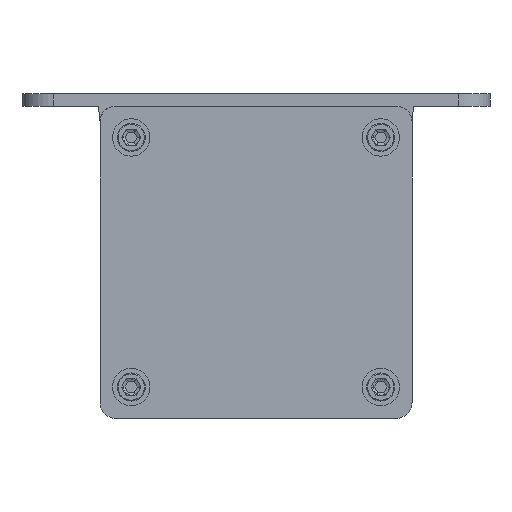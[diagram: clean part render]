
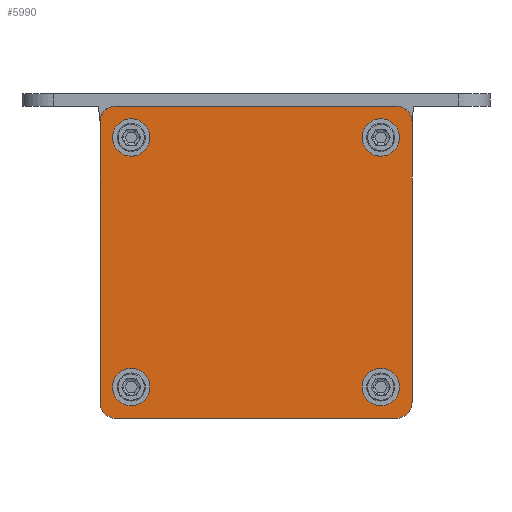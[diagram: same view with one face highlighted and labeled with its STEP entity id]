
A CAD part, front view. The second image highlights one B-rep face of the part: STEP entity #5990.
In plain terms, the highlighted planar face has unit normal (0, -1, 0).
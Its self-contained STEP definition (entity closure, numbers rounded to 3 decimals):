
#2125=CARTESIAN_POINT('',(-45.,-355.5,-45.));
#2126=DIRECTION('',(0.,-1.,0.));
#2127=DIRECTION('',(-1.,0.,0.));
#2128=AXIS2_PLACEMENT_3D('',#2125,#2126,#2127);
#2130=DIRECTION('',(0.,0.,-1.));
#2131=VECTOR('',#2130,90.);
#2132=CARTESIAN_POINT('',(-50.,-355.5,45.));
#2133=LINE('',#2132,#2131);
#2134=CARTESIAN_POINT('',(-45.,-355.5,45.));
#2135=DIRECTION('',(0.,-1.,0.));
#2136=DIRECTION('',(0.,0.,1.));
#2137=AXIS2_PLACEMENT_3D('',#2134,#2135,#2136);
#2139=DIRECTION('',(-1.,0.,0.));
#2140=VECTOR('',#2139,90.);
#2141=CARTESIAN_POINT('',(45.,-355.5,50.));
#2142=LINE('',#2141,#2140);
#2143=CARTESIAN_POINT('',(45.,-355.5,45.));
#2144=DIRECTION('',(0.,-1.,0.));
#2145=DIRECTION('',(1.,0.,0.));
#2146=AXIS2_PLACEMENT_3D('',#2143,#2144,#2145);
#2148=DIRECTION('',(0.,0.,1.));
#2149=VECTOR('',#2148,90.);
#2150=CARTESIAN_POINT('',(50.,-355.5,-45.));
#2151=LINE('',#2150,#2149);
#2152=CARTESIAN_POINT('',(45.,-355.5,-45.));
#2153=DIRECTION('',(0.,-1.,0.));
#2154=DIRECTION('',(0.,0.,-1.));
#2155=AXIS2_PLACEMENT_3D('',#2152,#2153,#2154);
#2157=DIRECTION('',(1.,0.,0.));
#2158=VECTOR('',#2157,90.);
#2159=CARTESIAN_POINT('',(-45.,-355.5,-50.));
#2160=LINE('',#2159,#2158);
#2161=CARTESIAN_POINT('',(-40.,-355.5,-40.));
#2162=DIRECTION('',(0.,-1.,0.));
#2163=DIRECTION('',(0.,0.,1.));
#2164=AXIS2_PLACEMENT_3D('',#2161,#2162,#2163);
#2166=CARTESIAN_POINT('',(-40.,-355.5,-40.));
#2167=DIRECTION('',(0.,-1.,0.));
#2168=DIRECTION('',(0.,0.,-1.));
#2169=AXIS2_PLACEMENT_3D('',#2166,#2167,#2168);
#2171=CARTESIAN_POINT('',(-40.,-355.5,40.));
#2172=DIRECTION('',(0.,-1.,0.));
#2173=DIRECTION('',(0.,0.,1.));
#2174=AXIS2_PLACEMENT_3D('',#2171,#2172,#2173);
#2176=CARTESIAN_POINT('',(-40.,-355.5,40.));
#2177=DIRECTION('',(0.,-1.,0.));
#2178=DIRECTION('',(0.,0.,-1.));
#2179=AXIS2_PLACEMENT_3D('',#2176,#2177,#2178);
#2181=CARTESIAN_POINT('',(40.,-355.5,-40.));
#2182=DIRECTION('',(0.,-1.,0.));
#2183=DIRECTION('',(0.,0.,1.));
#2184=AXIS2_PLACEMENT_3D('',#2181,#2182,#2183);
#2186=CARTESIAN_POINT('',(40.,-355.5,-40.));
#2187=DIRECTION('',(0.,-1.,0.));
#2188=DIRECTION('',(0.,0.,-1.));
#2189=AXIS2_PLACEMENT_3D('',#2186,#2187,#2188);
#2191=CARTESIAN_POINT('',(40.,-355.5,40.));
#2192=DIRECTION('',(0.,-1.,0.));
#2193=DIRECTION('',(0.,0.,1.));
#2194=AXIS2_PLACEMENT_3D('',#2191,#2192,#2193);
#2196=CARTESIAN_POINT('',(40.,-355.5,40.));
#2197=DIRECTION('',(0.,-1.,0.));
#2198=DIRECTION('',(0.,0.,-1.));
#2199=AXIS2_PLACEMENT_3D('',#2196,#2197,#2198);
#2509=CARTESIAN_POINT('',(-50.,-355.5,-45.));
#2510=CARTESIAN_POINT('',(-45.,-355.5,-50.));
#2511=VERTEX_POINT('',#2509);
#2512=VERTEX_POINT('',#2510);
#2513=CARTESIAN_POINT('',(45.,-355.5,-50.));
#2514=VERTEX_POINT('',#2513);
#2515=CARTESIAN_POINT('',(50.,-355.5,-45.));
#2516=VERTEX_POINT('',#2515);
#2517=CARTESIAN_POINT('',(50.,-355.5,45.));
#2518=VERTEX_POINT('',#2517);
#2519=CARTESIAN_POINT('',(45.,-355.5,50.));
#2520=VERTEX_POINT('',#2519);
#2521=CARTESIAN_POINT('',(-45.,-355.5,50.));
#2522=VERTEX_POINT('',#2521);
#2523=CARTESIAN_POINT('',(-50.,-355.5,45.));
#2524=VERTEX_POINT('',#2523);
#2537=CARTESIAN_POINT('',(-40.,-355.5,-36.75));
#2538=CARTESIAN_POINT('',(-40.,-355.5,-43.25));
#2539=VERTEX_POINT('',#2537);
#2540=VERTEX_POINT('',#2538);
#2541=CARTESIAN_POINT('',(-40.,-355.5,43.25));
#2542=CARTESIAN_POINT('',(-40.,-355.5,36.75));
#2543=VERTEX_POINT('',#2541);
#2544=VERTEX_POINT('',#2542);
#2545=CARTESIAN_POINT('',(40.,-355.5,-36.75));
#2546=CARTESIAN_POINT('',(40.,-355.5,-43.25));
#2547=VERTEX_POINT('',#2545);
#2548=VERTEX_POINT('',#2546);
#2549=CARTESIAN_POINT('',(40.,-355.5,43.25));
#2550=CARTESIAN_POINT('',(40.,-355.5,36.75));
#2551=VERTEX_POINT('',#2549);
#2552=VERTEX_POINT('',#2550);
#5945=CARTESIAN_POINT('',(0.,-355.5,0.));
#5946=DIRECTION('',(0.,-1.,0.));
#5947=DIRECTION('',(0.,0.,1.));
#5948=AXIS2_PLACEMENT_3D('',#5945,#5946,#5947);
#5949=PLANE('',#5948);
#5951=ORIENTED_EDGE('',*,*,#5950,.F.);
#5953=ORIENTED_EDGE('',*,*,#5952,.F.);
#5955=ORIENTED_EDGE('',*,*,#5954,.F.);
#5957=ORIENTED_EDGE('',*,*,#5956,.F.);
#5959=ORIENTED_EDGE('',*,*,#5958,.F.);
#5961=ORIENTED_EDGE('',*,*,#5960,.F.);
#5963=ORIENTED_EDGE('',*,*,#5962,.F.);
#5965=ORIENTED_EDGE('',*,*,#5964,.F.);
#5966=EDGE_LOOP('',(#5951,#5953,#5955,#5957,#5959,#5961,#5963,#5965));
#5967=FACE_OUTER_BOUND('',#5966,.F.);
#5968=ORIENTED_EDGE('',*,*,#5925,.T.);
#5969=ORIENTED_EDGE('',*,*,#5939,.T.);
#5970=EDGE_LOOP('',(#5968,#5969));
#5971=FACE_BOUND('',#5970,.F.);
#5973=ORIENTED_EDGE('',*,*,#5972,.T.);
#5975=ORIENTED_EDGE('',*,*,#5974,.T.);
#5976=EDGE_LOOP('',(#5973,#5975));
#5977=FACE_BOUND('',#5976,.F.);
#5979=ORIENTED_EDGE('',*,*,#5978,.T.);
#5981=ORIENTED_EDGE('',*,*,#5980,.T.);
#5982=EDGE_LOOP('',(#5979,#5981));
#5983=FACE_BOUND('',#5982,.F.);
#5985=ORIENTED_EDGE('',*,*,#5984,.T.);
#5987=ORIENTED_EDGE('',*,*,#5986,.T.);
#5988=EDGE_LOOP('',(#5985,#5987));
#5989=FACE_BOUND('',#5988,.F.);
#5990=ADVANCED_FACE('',(#5967,#5971,#5977,#5983,#5989),#5949,.T.);
#2129=CIRCLE('',#2128,5.);
#2138=CIRCLE('',#2137,5.);
#2147=CIRCLE('',#2146,5.);
#2156=CIRCLE('',#2155,5.);
#2165=CIRCLE('',#2164,3.25);
#2170=CIRCLE('',#2169,3.25);
#2175=CIRCLE('',#2174,3.25);
#2180=CIRCLE('',#2179,3.25);
#2185=CIRCLE('',#2184,3.25);
#2190=CIRCLE('',#2189,3.25);
#2195=CIRCLE('',#2194,3.25);
#2200=CIRCLE('',#2199,3.25);
#5925=EDGE_CURVE('',#2539,#2540,#2165,.T.);
#5939=EDGE_CURVE('',#2540,#2539,#2170,.T.);
#5950=EDGE_CURVE('',#2511,#2512,#2129,.T.);
#5952=EDGE_CURVE('',#2524,#2511,#2133,.T.);
#5954=EDGE_CURVE('',#2522,#2524,#2138,.T.);
#5956=EDGE_CURVE('',#2520,#2522,#2142,.T.);
#5958=EDGE_CURVE('',#2518,#2520,#2147,.T.);
#5960=EDGE_CURVE('',#2516,#2518,#2151,.T.);
#5962=EDGE_CURVE('',#2514,#2516,#2156,.T.);
#5964=EDGE_CURVE('',#2512,#2514,#2160,.T.);
#5972=EDGE_CURVE('',#2543,#2544,#2175,.T.);
#5974=EDGE_CURVE('',#2544,#2543,#2180,.T.);
#5978=EDGE_CURVE('',#2547,#2548,#2185,.T.);
#5980=EDGE_CURVE('',#2548,#2547,#2190,.T.);
#5984=EDGE_CURVE('',#2551,#2552,#2195,.T.);
#5986=EDGE_CURVE('',#2552,#2551,#2200,.T.);
